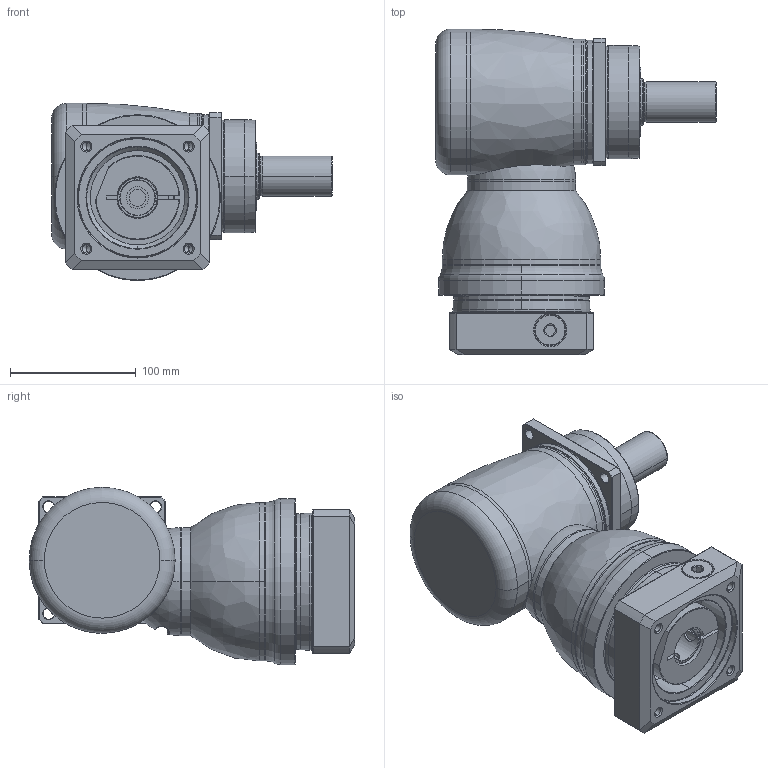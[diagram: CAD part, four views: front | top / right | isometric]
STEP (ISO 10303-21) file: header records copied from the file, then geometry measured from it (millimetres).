
FILE_DESCRIPTION((''),'2;1');
FILE_NAME('KF100_1ST_28-P0409600101_ASM','2016-06-22T',('d01943'),(''),'PRO/ENGINEER BY PARAMETRIC TECHNOLOGY CORPORATION, 2008410','PRO/ENGINEER BY PARAMETRIC TECHNOLOGY CORPORATION, 2008410','');
FILE_SCHEMA(('CONFIG_CONTROL_DESIGN'));
Length unit declared in the file: millimetre
Products named in the file (11): P1008400002; P1804400001; P0915400001; P1315400001; P1007400001; P1318400201; P0409600101; P0503600010; P0912402001; 21711418017; KF100_1ST_28-P0409600101_ASM
Assembly tree (10 placements, depth 2):
  KF100_1ST_28-P0409600101_ASM
    P1008400002
    P1804400001
    P0915400001
    P1315400001
    P1007400001
    P1318400201
    P0409600101
    P0503600010
    P0912402001
    21711418017
Bounding box: 223.3 x 259 x 141 mm (x, y, z)
Volume: 2326495.1 mm3; surface area: 338189.1 mm2
Topology: 11 solids, 11 shells, 475 faces, 1050 edges, 619 vertices
Faces by surface type: cylinder 154, cone 116, plane 99, torus 66, bspline 38, sphere 2
Entity records: 19078 total; most frequent: CARTESIAN_POINT 8429, DIRECTION 2338, ORIENTED_EDGE 2064, EDGE_CURVE 1032, AXIS2_PLACEMENT_3D 996, VERTEX_POINT 619, EDGE_LOOP 541, CIRCLE 538
